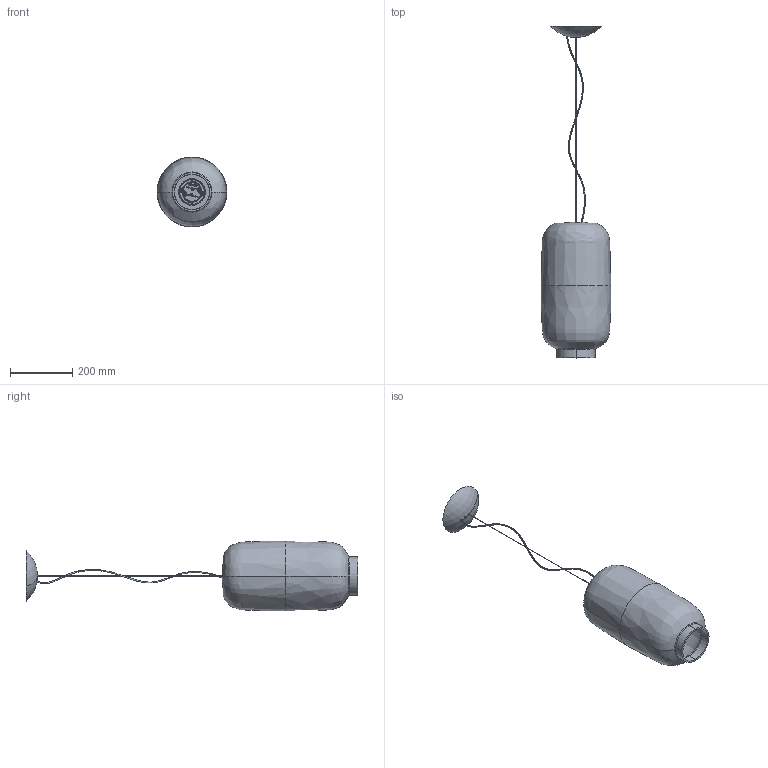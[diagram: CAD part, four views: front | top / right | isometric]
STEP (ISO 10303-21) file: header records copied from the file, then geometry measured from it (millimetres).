
FILE_DESCRIPTION (( 'STEP AP214' ), '1' );
FILE_NAME ('210_2_S_ME_3D.STEP', '2021-05-19T10:58:54', ( '' ), ( '' ), 'SwSTEP 2.0', 'SolidWorks 2021', '' );
FILE_SCHEMA (( 'AUTOMOTIVE_DESIGN' ));
Length unit declared in the file: millimetre
Products named in the file (1): 210_2_S_ME_3D
Bounding box: 224 x 1065.54 x 224 mm (x, y, z)
Volume: 1959209.5 mm3; surface area: 696921.6 mm2
Topology: 4 solids, 4 shells, 1359 faces, 3341 edges, 1925 vertices
Faces by surface type: bspline 503, torus 219, cylinder 205, plane 199, cone 142, sphere 91
Entity records: 68303 total; most frequent: CARTESIAN_POINT 25750, ORIENTED_EDGE 6486, DIRECTION 4985, EDGE_CURVE 3243, AXIS2_PLACEMENT_3D 2216, VERTEX_POINT 1917, EDGE_LOOP 1398, UNCERTAINTY_MEASURE_WITH_UNIT 1365
